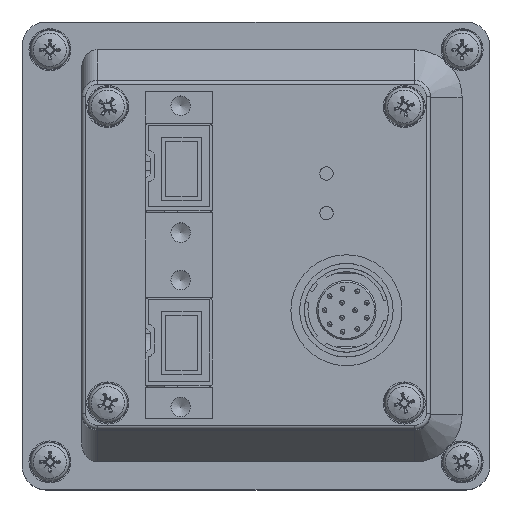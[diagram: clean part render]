
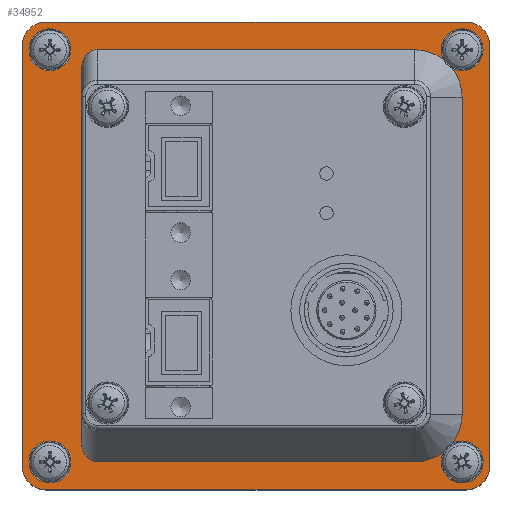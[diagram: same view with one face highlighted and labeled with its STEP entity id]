
A CAD part, top view. The second image highlights one B-rep face of the part: STEP entity #34952.
In plain terms, the highlighted planar face has unit normal (0, 0, 1).
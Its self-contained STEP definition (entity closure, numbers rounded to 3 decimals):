
#34569=CARTESIAN_POINT('',(-42.938,13.077,2.5));
#34570=VERTEX_POINT('',#34569);
#34577=CARTESIAN_POINT('',(-45.342,11.077,2.5));
#34578=VERTEX_POINT('',#34577);
#34579=CARTESIAN_POINT('',(-42.938,11.077,2.5));
#34580=DIRECTION('',(0.0,0.0,-1.0));
#34581=DIRECTION('',(-1.0,0.0,0.0));
#34582=AXIS2_PLACEMENT_3D('',#34579,#34580,#34581);
#34583=ELLIPSE('',#34582,2.404,2.0);
#34584=EDGE_CURVE('',#34570,#34578,#34583,.F.);
#34601=CARTESIAN_POINT('',(-45.342,-28.923,2.5));
#34602=VERTEX_POINT('',#34601);
#34603=CARTESIAN_POINT('',(-45.342,11.077,2.5));
#34604=DIRECTION('',(0.0,-1.0,0.0));
#34605=VECTOR('',#34604,40.);
#34606=LINE('',#34603,#34605);
#34607=EDGE_CURVE('',#34578,#34602,#34606,.T.);
#34625=CARTESIAN_POINT('',(6.658,11.077,2.5));
#34626=VERTEX_POINT('',#34625);
#34633=CARTESIAN_POINT('',(4.255,13.077,2.5));
#34634=VERTEX_POINT('',#34633);
#34635=CARTESIAN_POINT('',(4.255,11.077,2.5));
#34636=DIRECTION('',(0.0,0.0,-1.0));
#34637=DIRECTION('',(1.0,0.0,0.0));
#34638=AXIS2_PLACEMENT_3D('',#34635,#34636,#34637);
#34639=ELLIPSE('',#34638,2.404,2.);
#34640=EDGE_CURVE('',#34626,#34634,#34639,.F.);
#34659=CARTESIAN_POINT('',(-42.938,13.077,2.5));
#34660=DIRECTION('',(1.0,0.0,0.0));
#34661=VECTOR('',#34660,47.193);
#34662=LINE('',#34659,#34661);
#34663=EDGE_CURVE('',#34570,#34634,#34662,.T.);
#34695=CARTESIAN_POINT('',(0.658,-34.923,2.5));
#34696=VERTEX_POINT('',#34695);
#34704=CARTESIAN_POINT('',(-39.342,-34.923,2.5));
#34705=VERTEX_POINT('',#34704);
#34712=CARTESIAN_POINT('',(-39.342,-34.923,2.5));
#34713=DIRECTION('',(1.0,0.0,0.0));
#34714=VECTOR('',#34713,40.);
#34715=LINE('',#34712,#34714);
#34716=EDGE_CURVE('',#34705,#34696,#34715,.T.);
#34726=CARTESIAN_POINT('',(5.412,-32.585,2.5));
#34727=VERTEX_POINT('',#34726);
#34728=CARTESIAN_POINT('',(4.32,-33.676,2.5));
#34729=VERTEX_POINT('',#34728);
#34743=CARTESIAN_POINT('',(6.658,-28.923,2.5));
#34744=VERTEX_POINT('',#34743);
#34745=CARTESIAN_POINT('',(0.658,-28.923,2.5));
#34746=DIRECTION('',(0.,0.,1.0));
#34747=DIRECTION('',(0.707,-0.707,0.));
#34748=AXIS2_PLACEMENT_3D('',#34745,#34746,#34747);
#34749=CIRCLE('',#34748,6.);
#34750=EDGE_CURVE('',#34727,#34744,#34749,.T.);
#34760=CARTESIAN_POINT('',(0.658,-28.923,2.5));
#34761=DIRECTION('',(0.,0.,1.0));
#34762=DIRECTION('',(0.707,-0.707,0.));
#34763=AXIS2_PLACEMENT_3D('',#34760,#34761,#34762);
#34764=CIRCLE('',#34763,6.);
#34765=EDGE_CURVE('',#34696,#34729,#34764,.T.);
#34775=CARTESIAN_POINT('',(-43.003,-33.676,2.5));
#34776=VERTEX_POINT('',#34775);
#34777=CARTESIAN_POINT('',(-44.095,-32.585,2.5));
#34778=VERTEX_POINT('',#34777);
#34792=CARTESIAN_POINT('',(-39.342,-28.923,2.5));
#34793=DIRECTION('',(0.,0.,1.0));
#34794=DIRECTION('',(-0.707,-0.707,0.));
#34795=AXIS2_PLACEMENT_3D('',#34792,#34793,#34794);
#34796=CIRCLE('',#34795,6.);
#34797=EDGE_CURVE('',#34776,#34705,#34796,.T.);
#34802=CARTESIAN_POINT('',(-39.342,-28.923,2.5));
#34803=DIRECTION('',(0.,0.,1.0));
#34804=DIRECTION('',(-0.707,-0.707,0.));
#34805=AXIS2_PLACEMENT_3D('',#34802,#34803,#34804);
#34806=CIRCLE('',#34805,6.);
#34807=EDGE_CURVE('',#34602,#34778,#34806,.T.);
#34820=CARTESIAN_POINT('',(6.658,-28.923,2.5));
#34821=DIRECTION('',(0.0,1.0,0.0));
#34822=VECTOR('',#34821,40.);
#34823=LINE('',#34820,#34822);
#34824=EDGE_CURVE('',#34744,#34626,#34823,.T.);
#34829=CARTESIAN_POINT('',(-19.342,-8.923,2.5));
#34830=DIRECTION('',(0.0,0.0,1.0));
#34831=DIRECTION('',(1.0,0.0,0.0));
#34832=AXIS2_PLACEMENT_3D('',#34829,#34830,#34831);
#34833=PLANE('',#34832);
#34834=CARTESIAN_POINT('',(10.158,-35.423,2.5));
#34835=VERTEX_POINT('',#34834);
#34836=CARTESIAN_POINT('',(7.158,-38.423,2.5));
#34837=VERTEX_POINT('',#34836);
#34838=CARTESIAN_POINT('',(7.158,-35.423,2.5));
#34839=DIRECTION('',(0.0,0.0,-1.0));
#34840=DIRECTION('',(0.707,-0.707,0.0));
#34841=AXIS2_PLACEMENT_3D('',#34838,#34839,#34840);
#34842=CIRCLE('',#34841,3.0);
#34843=EDGE_CURVE('',#34835,#34837,#34842,.T.);
#34844=ORIENTED_EDGE('',*,*,#34843,.F.);
#34845=CARTESIAN_POINT('',(10.158,17.577,2.5));
#34846=VERTEX_POINT('',#34845);
#34847=CARTESIAN_POINT('',(10.158,17.577,2.5));
#34848=DIRECTION('',(0.0,-1.0,0.0));
#34849=VECTOR('',#34848,53.);
#34850=LINE('',#34847,#34849);
#34851=EDGE_CURVE('',#34846,#34835,#34850,.T.);
#34852=ORIENTED_EDGE('',*,*,#34851,.F.);
#34853=CARTESIAN_POINT('',(7.158,20.577,2.5));
#34854=VERTEX_POINT('',#34853);
#34855=CARTESIAN_POINT('',(7.158,17.577,2.5));
#34856=DIRECTION('',(0.0,0.0,-1.));
#34857=DIRECTION('',(0.707,0.707,0.0));
#34858=AXIS2_PLACEMENT_3D('',#34855,#34856,#34857);
#34859=CIRCLE('',#34858,3.);
#34860=EDGE_CURVE('',#34854,#34846,#34859,.T.);
#34861=ORIENTED_EDGE('',*,*,#34860,.F.);
#34862=CARTESIAN_POINT('',(-45.842,20.577,2.5));
#34863=VERTEX_POINT('',#34862);
#34864=CARTESIAN_POINT('',(-45.842,20.577,2.5));
#34865=DIRECTION('',(1.0,0.0,0.0));
#34866=VECTOR('',#34865,53.);
#34867=LINE('',#34864,#34866);
#34868=EDGE_CURVE('',#34863,#34854,#34867,.T.);
#34869=ORIENTED_EDGE('',*,*,#34868,.F.);
#34870=CARTESIAN_POINT('',(-48.842,17.577,2.5));
#34871=VERTEX_POINT('',#34870);
#34872=CARTESIAN_POINT('',(-45.842,17.577,2.5));
#34873=DIRECTION('',(0.0,0.0,-1.0));
#34874=DIRECTION('',(-0.707,0.707,0.0));
#34875=AXIS2_PLACEMENT_3D('',#34872,#34873,#34874);
#34876=CIRCLE('',#34875,3.0);
#34877=EDGE_CURVE('',#34871,#34863,#34876,.T.);
#34878=ORIENTED_EDGE('',*,*,#34877,.F.);
#34879=CARTESIAN_POINT('',(-48.842,-35.423,2.5));
#34880=VERTEX_POINT('',#34879);
#34881=CARTESIAN_POINT('',(-48.842,-35.423,2.5));
#34882=DIRECTION('',(0.0,1.0,0.0));
#34883=VECTOR('',#34882,53.);
#34884=LINE('',#34881,#34883);
#34885=EDGE_CURVE('',#34880,#34871,#34884,.T.);
#34886=ORIENTED_EDGE('',*,*,#34885,.F.);
#34887=CARTESIAN_POINT('',(-45.842,-38.423,2.5));
#34888=VERTEX_POINT('',#34887);
#34889=CARTESIAN_POINT('',(-45.842,-35.423,2.5));
#34890=DIRECTION('',(0.0,0.0,-1.0));
#34891=DIRECTION('',(-0.707,-0.707,0.0));
#34892=AXIS2_PLACEMENT_3D('',#34889,#34890,#34891);
#34893=CIRCLE('',#34892,3.0);
#34894=EDGE_CURVE('',#34888,#34880,#34893,.T.);
#34895=ORIENTED_EDGE('',*,*,#34894,.F.);
#34896=CARTESIAN_POINT('',(7.158,-38.423,2.5));
#34897=DIRECTION('',(-1.0,0.0,0.0));
#34898=VECTOR('',#34897,53.);
#34899=LINE('',#34896,#34898);
#34900=EDGE_CURVE('',#34837,#34888,#34899,.T.);
#34901=ORIENTED_EDGE('',*,*,#34900,.F.);
#34902=EDGE_LOOP('',(#34844,#34852,#34861,#34869,#34878,#34886,#34895,#34901));
#34903=FACE_OUTER_BOUND('',#34902,.T.);
#34904=CARTESIAN_POINT('',(9.308,17.077,2.5));
#34905=VERTEX_POINT('',#34904);
#34906=CARTESIAN_POINT('',(6.658,17.077,2.5));
#34907=DIRECTION('',(0.0,0.0,-1.0));
#34908=DIRECTION('',(1.0,0.0,0.0));
#34909=AXIS2_PLACEMENT_3D('',#34906,#34907,#34908);
#34910=CIRCLE('',#34909,2.65);
#34911=EDGE_CURVE('',#34905,#34905,#34910,.T.);
#34912=ORIENTED_EDGE('',*,*,#34911,.T.);
#34913=EDGE_LOOP('',(#34912));
#34914=FACE_BOUND('',#34913,.T.);
#34915=ORIENTED_EDGE('',*,*,#34663,.T.);
#34916=ORIENTED_EDGE('',*,*,#34640,.F.);
#34917=ORIENTED_EDGE('',*,*,#34824,.F.);
#34918=ORIENTED_EDGE('',*,*,#34750,.F.);
#34919=CARTESIAN_POINT('',(6.658,-34.923,2.5));
#34920=DIRECTION('',(0.0,0.0,-1.0));
#34921=DIRECTION('',(1.0,0.0,0.0));
#34922=AXIS2_PLACEMENT_3D('',#34919,#34920,#34921);
#34923=CIRCLE('',#34922,2.65);
#34924=EDGE_CURVE('',#34727,#34729,#34923,.T.);
#34925=ORIENTED_EDGE('',*,*,#34924,.T.);
#34926=ORIENTED_EDGE('',*,*,#34765,.F.);
#34927=ORIENTED_EDGE('',*,*,#34716,.F.);
#34928=ORIENTED_EDGE('',*,*,#34797,.F.);
#34929=CARTESIAN_POINT('',(-45.342,-34.923,2.5));
#34930=DIRECTION('',(0.0,0.0,-1.0));
#34931=DIRECTION('',(1.0,0.0,0.0));
#34932=AXIS2_PLACEMENT_3D('',#34929,#34930,#34931);
#34933=CIRCLE('',#34932,2.65);
#34934=EDGE_CURVE('',#34776,#34778,#34933,.T.);
#34935=ORIENTED_EDGE('',*,*,#34934,.T.);
#34936=ORIENTED_EDGE('',*,*,#34807,.F.);
#34937=ORIENTED_EDGE('',*,*,#34607,.F.);
#34938=ORIENTED_EDGE('',*,*,#34584,.F.);
#34939=EDGE_LOOP('',(#34915,#34916,#34917,#34918,#34925,#34926,#34927,#34928,#34935,#34936,#34937,#34938));
#34940=FACE_BOUND('',#34939,.T.);
#34941=CARTESIAN_POINT('',(-42.692,17.077,2.5));
#34942=VERTEX_POINT('',#34941);
#34943=CARTESIAN_POINT('',(-45.342,17.077,2.5));
#34944=DIRECTION('',(0.0,0.0,-1.0));
#34945=DIRECTION('',(1.0,0.0,0.0));
#34946=AXIS2_PLACEMENT_3D('',#34943,#34944,#34945);
#34947=CIRCLE('',#34946,2.65);
#34948=EDGE_CURVE('',#34942,#34942,#34947,.T.);
#34949=ORIENTED_EDGE('',*,*,#34948,.T.);
#34950=EDGE_LOOP('',(#34949));
#34951=FACE_BOUND('',#34950,.T.);
#34952=ADVANCED_FACE('',(#34903,#34914,#34940,#34951),#34833,.T.);
